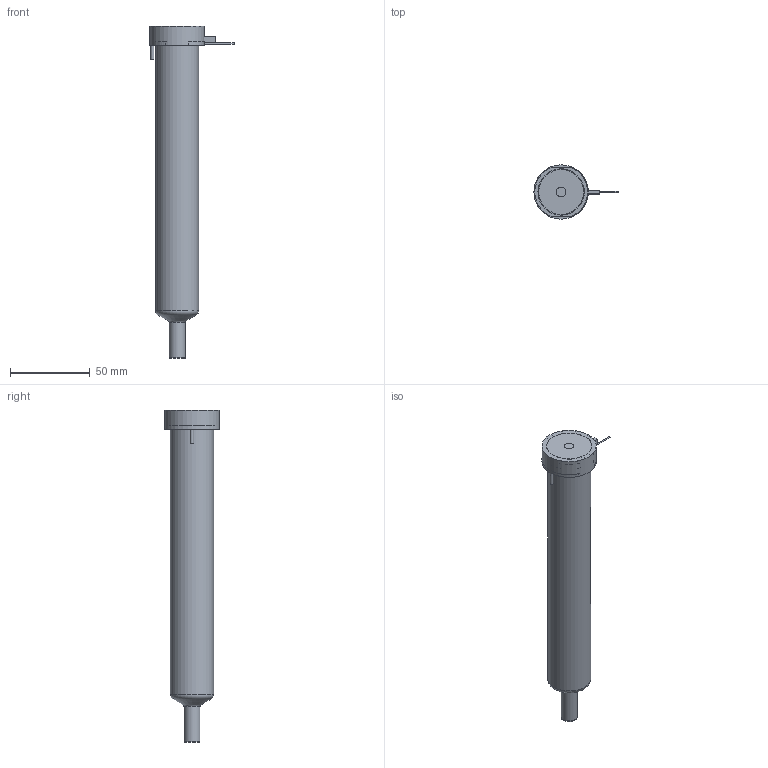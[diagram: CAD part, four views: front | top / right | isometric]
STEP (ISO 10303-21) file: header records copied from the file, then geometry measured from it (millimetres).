
FILE_DESCRIPTION(/* description */ (''),/* implementation_level */ '2;1');
FILE_NAME(/* name */ 'BXYCN13175N4F_200C_a',/* time_stamp */ '2016-02-18T13:23:01+13:00',/* author */ (''),/* organization */ (''),/* preprocessor_version */ 'ST-DEVELOPER v9',/* originating_system */ 'UGS - NX 4.0',/* authorisation */ '');
FILE_SCHEMA (('CONFIG_CONTROL_DESIGN'));
Length unit declared in the file: millimetre
Products named in the file (1): matt4A4Bpkgo
Bounding box: 52.65 x 34 x 207.74 mm (x, y, z)
Volume: 185841.5 mm3; surface area: 35055.9 mm2
Topology: 2 solids, 2 shells, 64 faces, 137 edges, 89 vertices
Faces by surface type: plane 29, cylinder 21, torus 7, cone 5, bspline 1, sphere 1
Full cylindrical faces by diameter (mm): 1 x2, 1.8 x1, 2 x1, 4 x1, 6 x1, 9.61 x1, 9.995 x2, 12.6 x1, 22.2 x1, 27 x1, 34 x1
Entity records: 1835 total; most frequent: CARTESIAN_POINT 464, DIRECTION 282, ORIENTED_EDGE 212, AXIS2_PLACEMENT_3D 122, EDGE_CURVE 106, EDGE_LOOP 102, VERTEX_POINT 82, ADVANCED_FACE 64
